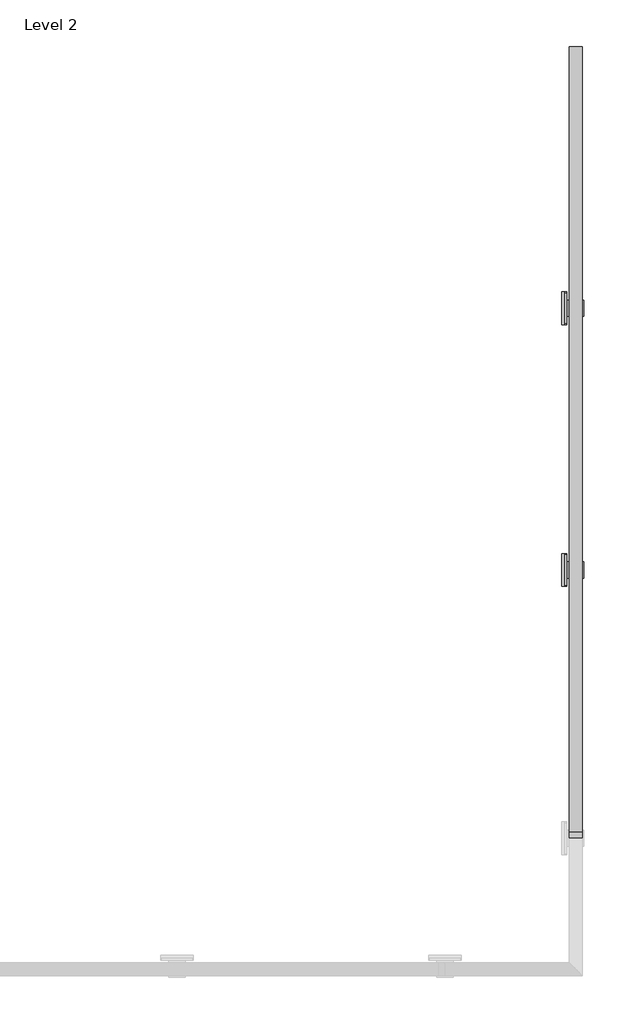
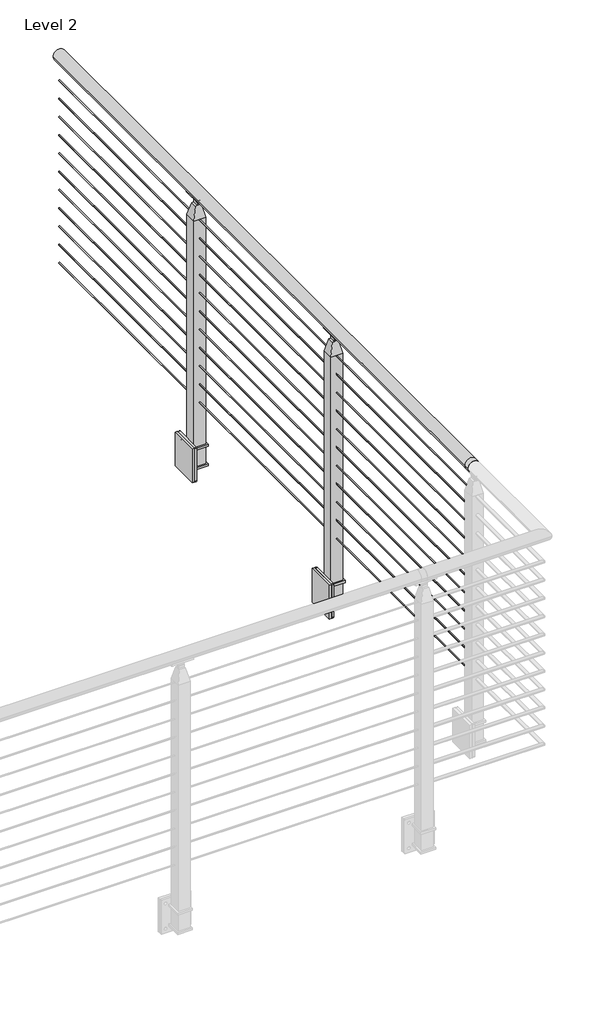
# One storey, part 4 of 17: 1 railing.
"""IFC4 building model written with IfcOpenShell, lengths in millimetres."""

from ifc_helpers import new_model, si_unit, point, frame, frame_2d, origin, place, context, project, spatial, polyline, circle_curve, trimmed, segment, composite_curve, outline, extrude, faceted_brep, element, save
from ifc_brep_helpers import plane_surface, cylinder_surface, revolved_surface, advanced_brep

model = new_model("IFC4")

# Units and contexts
model_context = context("Model", 3, world=origin())
ifc_project = project(units=[si_unit("LENGTHUNIT", "METRE", prefix="MILLI")], contexts=[model_context])

# Site, building, storey
site = spatial("IfcSite", under=ifc_project)
building = spatial("IfcBuilding", under=site)
storey = spatial("IfcBuildingStorey", under=building, Name="Level 2", Elevation=3048.0)

# Railing
placement = place(None, origin())
element("IfcRailing", 1, ObjectType="VIVA-CUBE-Cable-Fascia Mount-Straight", at=placement, inside=storey, context=model_context, shape_type="SolidModel", body=[
    advanced_brep(
    [(-3525.8538707, -48717.1587772, 4102.1), (-3576.6538707, -48717.1587772, 4102.1), (-3576.6538707, -51765.1587772, 4102.1), (-3525.8538707, -51765.1587772, 4102.1), (-3525.8538707, -51790.9556522, 4102.1), (-3576.6538707, -51790.9556522, 4102.1)],
    [
        (0, 1, circle_curve(frame((-3551.2538707, -48717.1587772, 4102.1), z_axis=(0.0, 1.0, 0.0), x_axis=(-1.0, 0.0, 0.0)), 25.4)),
        (1, 0, circle_curve(frame((-3551.2538707, -48717.1587772, 4102.1), z_axis=(0.0, 1.0, 0.0), x_axis=(-1.0, 0.0, 0.0)), 25.4)),
        (2, 3, circle_curve(frame((-3551.2538707, -51765.1587772, 4102.1), z_axis=(0.0, 1.0, 0.0), x_axis=(-1.0, 0.0, 0.0)), 25.4)),
        (3, 0),
        (1, 2),
        (3, 2, circle_curve(frame((-3551.2538707, -51765.1587772, 4102.1), z_axis=(0.0, 1.0, 0.0), x_axis=(-1.0, 0.0, 0.0)), 25.4)),
        (4, 5, circle_curve(frame((-3551.2538707, -51790.9556522, 4102.1), z_axis=(0.0, -1.0, 0.0), x_axis=(-1.0, 0.0, 0.0)), 25.4)),
        (5, 4, circle_curve(frame((-3551.2538707, -51790.9556522, 4102.1), z_axis=(0.0, -1.0, 0.0), x_axis=(-1.0, 0.0, 0.0)), 25.4)),
        (4, 3),
        (2, 5),
    ],
    [
        plane_surface(frame((-3551.2538707, -48717.1587772, 4127.5), z_axis=(0.0, 1.0, 0.0), x_axis=(0.0, 0.0, 1.0))),
        cylinder_surface(frame((-3551.2538707, -51765.1587772, 4102.1), z_axis=(0.0, -1.0, 0.0), x_axis=(-1.0, 0.0, 0.0)), 25.4),
        plane_surface(frame((-3551.2538707, -51790.9556522, 4127.5), z_axis=(0.0, -1.0, 0.0), x_axis=(0.0, 0.0, 1.0))),
        cylinder_surface(frame((-3551.2538707, -51790.9556522, 4102.1), z_axis=(0.0, -1.0, 0.0), x_axis=(-1.0, 0.0, 0.0)), 25.4),
    ],
    [
        (0, [[1, 2]]),
        (1, [[3, 4, -2, 5]]),
        (1, [[6, -5, -1, -4]]),
        (2, [[7, 8]]),
        (3, [[-7, 9, -3, 10]]),
        (3, [[-8, -10, -6, -9]]),
    ],
),
    extrude(outline(composite_curve([segment(trimmed(circle_curve(frame_2d((3985.4124, -3551.2538707)), 2.3876), [point((3985.4124, -3553.6414707))], [point((3985.4124, -3548.8662707))], False, "CARTESIAN"), True, "CONTINUOUS"), segment(trimmed(circle_curve(frame_2d((3985.4124, -3551.2538707)), 2.3876), [point((3985.4124, -3548.8662707))], [point((3985.4124, -3553.6414707))], False, "CARTESIAN"), True, "CONTINUOUS")], self_intersect=False)), frame((0.0, -51765.1587772, 0.0), z_axis=(0.0, 1.0, 0.0), x_axis=(0.0, 0.0, 1.0)), (0.0, 0.0, 1.0), 3048.0),
    extrude(outline(composite_curve([segment(trimmed(circle_curve(frame_2d((3902.8624, -3551.2538707)), 2.3876), [point((3902.8624, -3553.6414707))], [point((3902.8624, -3548.8662707))], False, "CARTESIAN"), True, "CONTINUOUS"), segment(trimmed(circle_curve(frame_2d((3902.8624, -3551.2538707)), 2.3876), [point((3902.8624, -3548.8662707))], [point((3902.8624, -3553.6414707))], False, "CARTESIAN"), True, "CONTINUOUS")], self_intersect=False)), frame((0.0, -51765.1587772, 0.0), z_axis=(0.0, 1.0, 0.0), x_axis=(0.0, 0.0, 1.0)), (0.0, 0.0, 1.0), 3048.0),
    extrude(outline(composite_curve([segment(trimmed(circle_curve(frame_2d((3820.3124, -3551.2538707)), 2.3876), [point((3820.3124, -3553.6414707))], [point((3820.3124, -3548.8662707))], False, "CARTESIAN"), True, "CONTINUOUS"), segment(trimmed(circle_curve(frame_2d((3820.3124, -3551.2538707)), 2.3876), [point((3820.3124, -3548.8662707))], [point((3820.3124, -3553.6414707))], False, "CARTESIAN"), True, "CONTINUOUS")], self_intersect=False)), frame((0.0, -51765.1587772, 0.0), z_axis=(0.0, 1.0, 0.0), x_axis=(0.0, 0.0, 1.0)), (0.0, 0.0, 1.0), 3048.0),
    extrude(outline(composite_curve([segment(trimmed(circle_curve(frame_2d((3737.7624, -3551.2538707)), 2.3876), [point((3737.7624, -3553.6414707))], [point((3737.7624, -3548.8662707))], False, "CARTESIAN"), True, "CONTINUOUS"), segment(trimmed(circle_curve(frame_2d((3737.7624, -3551.2538707)), 2.3876), [point((3737.7624, -3548.8662707))], [point((3737.7624, -3553.6414707))], False, "CARTESIAN"), True, "CONTINUOUS")], self_intersect=False)), frame((0.0, -51765.1587772, 0.0), z_axis=(0.0, 1.0, 0.0), x_axis=(0.0, 0.0, 1.0)), (0.0, 0.0, 1.0), 3048.0),
    extrude(outline(composite_curve([segment(trimmed(circle_curve(frame_2d((3655.2124, -3551.2538707)), 2.3876), [point((3655.2124, -3553.6414707))], [point((3655.2124, -3548.8662707))], False, "CARTESIAN"), True, "CONTINUOUS"), segment(trimmed(circle_curve(frame_2d((3655.2124, -3551.2538707)), 2.3876), [point((3655.2124, -3548.8662707))], [point((3655.2124, -3553.6414707))], False, "CARTESIAN"), True, "CONTINUOUS")], self_intersect=False)), frame((0.0, -51765.1587772, 0.0), z_axis=(0.0, 1.0, 0.0), x_axis=(0.0, 0.0, 1.0)), (0.0, 0.0, 1.0), 3048.0),
    extrude(outline(composite_curve([segment(trimmed(circle_curve(frame_2d((3572.6624, -3551.2538707)), 2.3876), [point((3572.6624, -3553.6414707))], [point((3572.6624, -3548.8662707))], False, "CARTESIAN"), True, "CONTINUOUS"), segment(trimmed(circle_curve(frame_2d((3572.6624, -3551.2538707)), 2.3876), [point((3572.6624, -3548.8662707))], [point((3572.6624, -3553.6414707))], False, "CARTESIAN"), True, "CONTINUOUS")], self_intersect=False)), frame((0.0, -51765.1587772, 0.0), z_axis=(0.0, 1.0, 0.0), x_axis=(0.0, 0.0, 1.0)), (0.0, 0.0, 1.0), 3048.0),
    extrude(outline(composite_curve([segment(trimmed(circle_curve(frame_2d((3490.1124, -3551.2538707)), 2.3876), [point((3490.1124, -3553.6414707))], [point((3490.1124, -3548.8662707))], False, "CARTESIAN"), True, "CONTINUOUS"), segment(trimmed(circle_curve(frame_2d((3490.1124, -3551.2538707)), 2.3876), [point((3490.1124, -3548.8662707))], [point((3490.1124, -3553.6414707))], False, "CARTESIAN"), True, "CONTINUOUS")], self_intersect=False)), frame((0.0, -51765.1587772, 0.0), z_axis=(0.0, 1.0, 0.0), x_axis=(0.0, 0.0, 1.0)), (0.0, 0.0, 1.0), 3048.0),
    extrude(outline(composite_curve([segment(trimmed(circle_curve(frame_2d((3407.5624, -3551.2538707)), 2.3876), [point((3407.5624, -3553.6414707))], [point((3407.5624, -3548.8662707))], False, "CARTESIAN"), True, "CONTINUOUS"), segment(trimmed(circle_curve(frame_2d((3407.5624, -3551.2538707)), 2.3876), [point((3407.5624, -3548.8662707))], [point((3407.5624, -3553.6414707))], False, "CARTESIAN"), True, "CONTINUOUS")], self_intersect=False)), frame((0.0, -51765.1587772, 0.0), z_axis=(0.0, 1.0, 0.0), x_axis=(0.0, 0.0, 1.0)), (0.0, 0.0, 1.0), 3048.0),
    extrude(outline(composite_curve([segment(trimmed(circle_curve(frame_2d((3325.0124, -3551.2538707)), 2.3876), [point((3325.0124, -3553.6414707))], [point((3325.0124, -3548.8662707))], False, "CARTESIAN"), True, "CONTINUOUS"), segment(trimmed(circle_curve(frame_2d((3325.0124, -3551.2538707)), 2.3876), [point((3325.0124, -3548.8662707))], [point((3325.0124, -3553.6414707))], False, "CARTESIAN"), True, "CONTINUOUS")], self_intersect=False)), frame((0.0, -51765.1587772, 0.0), z_axis=(0.0, 1.0, 0.0), x_axis=(0.0, 0.0, 1.0)), (0.0, 0.0, 1.0), 3048.0),
    extrude(outline(composite_curve([segment(trimmed(circle_curve(frame_2d((3242.4624, -3551.2538707)), 2.3876), [point((3242.4624, -3553.6414707))], [point((3242.4624, -3548.8662707))], False, "CARTESIAN"), True, "CONTINUOUS"), segment(trimmed(circle_curve(frame_2d((3242.4624, -3551.2538707)), 2.3876), [point((3242.4624, -3548.8662707))], [point((3242.4624, -3553.6414707))], False, "CARTESIAN"), True, "CONTINUOUS")], self_intersect=False)), frame((0.0, -51765.1587772, 0.0), z_axis=(0.0, 1.0, 0.0), x_axis=(0.0, 0.0, 1.0)), (0.0, 0.0, 1.0), 3048.0),
    extrude(outline(composite_curve([segment(trimmed(circle_curve(frame_2d((3159.9124, -3551.2538707)), 2.3876), [point((3159.9124, -3553.6414707))], [point((3159.9124, -3548.8662707))], False, "CARTESIAN"), True, "CONTINUOUS"), segment(trimmed(circle_curve(frame_2d((3159.9124, -3551.2538707)), 2.3876), [point((3159.9124, -3548.8662707))], [point((3159.9124, -3553.6414707))], False, "CARTESIAN"), True, "CONTINUOUS")], self_intersect=False)), frame((0.0, -51765.1587772, 0.0), z_axis=(0.0, 1.0, 0.0), x_axis=(0.0, 0.0, 1.0)), (0.0, 0.0, 1.0), 3048.0),
    extrude(outline(polyline([(-3605.7669063, -49669.2619022), (-3595.7847063, -49669.2619022), (-3595.7847063, -49796.2619022), (-3605.7669063, -49796.2619022), (-3605.7669063, -49669.2619022)])), frame((0.0, 0.0, 2838.45), z_axis=(0.0, 0.0, 1.0), x_axis=(1.0, 0.0, 0.0)), (0.0, 0.0, 1.0), 152.4),
    extrude(outline(composite_curve([segment(trimmed(circle_curve(frame_2d((-49671.8019022, 2988.31)), 2.54), [point((-49671.8019022, 2990.85))], [point((-49669.2619022, 2988.31))], False, "CARTESIAN"), True, "CONTINUOUS"), segment(polyline([(-49669.2619022, 2988.31), (-49669.2619022, 2840.99)]), True, "CONTINUOUS"), segment(trimmed(circle_curve(frame_2d((-49671.8019022, 2840.99)), 2.54), [point((-49669.2619022, 2840.99))], [point((-49671.8019022, 2838.45))], False, "CARTESIAN"), True, "CONTINUOUS"), segment(polyline([(-49671.8019022, 2838.45), (-49793.7219022, 2838.45)]), True, "CONTINUOUS"), segment(trimmed(circle_curve(frame_2d((-49793.7219022, 2840.99)), 2.54), [point((-49793.7219022, 2838.45))], [point((-49796.2619022, 2840.99))], False, "CARTESIAN"), True, "CONTINUOUS"), segment(polyline([(-49796.2619022, 2840.99), (-49796.2619022, 2988.31)]), True, "CONTINUOUS"), segment(trimmed(circle_curve(frame_2d((-49793.7219022, 2988.31)), 2.54), [point((-49796.2619022, 2988.31))], [point((-49793.7219022, 2990.85))], False, "CARTESIAN"), True, "CONTINUOUS"), segment(polyline([(-49793.7219022, 2990.85), (-49671.8019022, 2990.85)]), True, "CONTINUOUS")], self_intersect=False), holes=[composite_curve([segment(trimmed(circle_curve(frame_2d((-49777.2119022, 2971.8)), 5.55625), [point((-49771.6556522, 2971.8))], [point((-49782.7681522, 2971.8))], True, "CARTESIAN"), True, "CONTINUOUS"), segment(trimmed(circle_curve(frame_2d((-49777.2119022, 2971.8)), 5.55625), [point((-49782.7681522, 2971.8))], [point((-49771.6556522, 2971.8))], True, "CARTESIAN"), True, "CONTINUOUS")], self_intersect=False), composite_curve([segment(trimmed(circle_curve(frame_2d((-49688.3119022, 2971.8)), 5.55625), [point((-49682.7556522, 2971.8))], [point((-49693.8681522, 2971.8))], True, "CARTESIAN"), True, "CONTINUOUS"), segment(trimmed(circle_curve(frame_2d((-49688.3119022, 2971.8)), 5.55625), [point((-49693.8681522, 2971.8))], [point((-49682.7556522, 2971.8))], True, "CARTESIAN"), True, "CONTINUOUS")], self_intersect=False), composite_curve([segment(trimmed(circle_curve(frame_2d((-49688.3119022, 2857.5)), 5.55625), [point((-49682.7556522, 2857.5))], [point((-49693.8681522, 2857.5))], True, "CARTESIAN"), True, "CONTINUOUS"), segment(trimmed(circle_curve(frame_2d((-49688.3119022, 2857.5)), 5.55625), [point((-49693.8681522, 2857.5))], [point((-49682.7556522, 2857.5))], True, "CARTESIAN"), True, "CONTINUOUS")], self_intersect=False), composite_curve([segment(trimmed(circle_curve(frame_2d((-49777.2119022, 2857.5)), 5.55625), [point((-49771.6556522, 2857.5))], [point((-49782.7681522, 2857.5))], True, "CARTESIAN"), True, "CONTINUOUS"), segment(trimmed(circle_curve(frame_2d((-49777.2119022, 2857.5)), 5.55625), [point((-49782.7681522, 2857.5))], [point((-49771.6556522, 2857.5))], True, "CARTESIAN"), True, "CONTINUOUS")], self_intersect=False)]), frame((-3595.7847063, 0.0, 0.0), z_axis=(1.0, 0.0, 0.0), x_axis=(0.0, 1.0, 0.0)), (0.0, 0.0, 1.0), 9.9822),
    extrude(outline(polyline([(-3595.7847063, -49764.5119022), (-3595.7847063, -49701.0119022), (-3519.5038707, -49701.0119022), (-3519.5038707, -49764.5119022), (-3595.7847063, -49764.5119022)])), frame((0.0, 0.0, 2865.4375), z_axis=(0.0, 0.0, 1.0), x_axis=(1.0, 0.0, 0.0)), (0.0, 0.0, 1.0), 9.5123),
    extrude(outline(polyline([(-3595.7847063, -49764.5119022), (-3595.7847063, -49701.0119022), (-3519.5038707, -49701.0119022), (-3519.5038707, -49764.5119022), (-3595.7847063, -49764.5119022)])), frame((0.0, 0.0, 2954.3375), z_axis=(0.0, 0.0, 1.0), x_axis=(1.0, 0.0, 0.0)), (0.0, 0.0, 1.0), 9.525),
    faceted_brep([(-3563.9538707, -49720.0619022, 4045.2902749), (-3563.9538707, -49745.4619022, 4045.2902749), (-3555.2226207, -49745.4619022, 4045.2902749), (-3555.2226207, -49720.0619022, 4045.2902749), (-3538.5538707, -49745.4619022, 4045.2902749), (-3538.5538707, -49720.0619022, 4045.2902749), (-3547.2851207, -49720.0619022, 4045.2902749), (-3547.2851207, -49745.4619022, 4045.2902749), (-3576.6538707, -49707.3619022, 3989.1347854), (-3525.8538707, -49707.3619022, 3989.1347854), (-3576.6538707, -49758.1619022, 3989.1347854), (-3525.8538707, -49758.1619022, 3989.1347854), (-3576.6538707, -49707.3619022, 2874.9498), (-3525.8538707, -49707.3619022, 2874.9498), (-3525.8538707, -49758.1619022, 2874.9498), (-3576.6538707, -49758.1619022, 2874.9498), (-3547.2851207, -49745.4619022, 4057.3306013), (-3547.2851207, -49720.0619022, 4057.3306013), (-3555.2226207, -49720.0619022, 4057.3306013), (-3555.2226207, -49745.4619022, 4057.3306013)], [[[0, 1, 2, 3]], [[4, 5, 6, 7]], [[8, 0, 3, 6, 5, 9]], [[1, 0, 8, 10]], [[1, 10, 11, 4, 7, 2]], [[5, 4, 11, 9]], [[12, 13, 14, 15]], [[12, 15, 10, 8]], [[15, 14, 11, 10]], [[14, 13, 9, 11]], [[13, 12, 8, 9]], [[16, 17, 18, 19]], [[17, 16, 7, 6]], [[18, 17, 6, 3]], [[19, 18, 3, 2]], [[16, 19, 2, 7]]]),
    extrude(outline(composite_curve([segment(trimmed(circle_curve(frame_2d((4102.1433184, -3551.3505991)), 25.4345159), [point((4080.0284941, -3538.7867962))], [point((4079.9335733, -3563.7458328))], True, "CARTESIAN"), True, "CONTINUOUS"), segment(trimmed(circle_curve(frame_2d((4077.4310885, -3564.990486)), 2.7949225), [point((4079.9335733, -3563.7458328))], [point((4075.0585031, -3566.467791))], False, "CARTESIAN"), True, "CONTINUOUS"), segment(trimmed(circle_curve(frame_2d((4102.905945, -3551.217136)), 31.75), [point((4075.0585031, -3566.467791))], [point((4075.6392616, -3534.9508988))], False, "CARTESIAN"), True, "CONTINUOUS"), segment(trimmed(circle_curve(frame_2d((4077.5101807, -3537.2392385)), 2.9558141), [point((4075.6392616, -3534.9508988))], [point((4080.0284941, -3538.7867962))], False, "CARTESIAN"), True, "CONTINUOUS")], self_intersect=False)), frame((0.0, -49777.9993022, 0.0), z_axis=(0.0, 1.0, 0.0), x_axis=(0.0, 0.0, 1.0)), (0.0, 0.0, 1.0), 90.4748),
    advanced_brep(
    [(-3553.7938707, -49705.6939873, 4071.3685171), (-3553.7938707, -49720.0619022, 4057.0006022), (-3553.7938707, -49745.4619022, 4057.0006022), (-3553.7938707, -49759.829817, 4071.3685171), (-3548.7138707, -49705.6939873, 4071.3685171), (-3548.7138707, -49759.829817, 4071.3685171), (-3548.7138707, -49745.4619022, 4057.0006022), (-3548.7138707, -49720.0619022, 4057.0006022)],
    [
        (0, 1, circle_curve(frame((-3553.7938707, -49705.6939873, 4057.0006022), z_axis=(1.0, 0.0, 0.0), x_axis=(0.0, -1.0, 0.0)), 14.3679149)),
        (1, 2, circle_curve(frame((-3553.7938707, -49732.7619022, 4057.0006022), z_axis=(-1.0, 0.0, 0.0), x_axis=(0.0, -1.0, 0.0)), 12.7)),
        (2, 3, circle_curve(frame((-3553.7938707, -49759.829817, 4057.0006022), z_axis=(1.0, 0.0, 0.0), x_axis=(0.0, -1.0, 0.0)), 14.3679149)),
        (3, 0),
        (4, 5),
        (5, 6, circle_curve(frame((-3548.7138707, -49759.829817, 4057.0006022), z_axis=(-1.0, 0.0, 0.0), x_axis=(0.0, -1.0, 0.0)), 14.3679149)),
        (6, 7, circle_curve(frame((-3548.7138707, -49732.7619022, 4057.0006022), z_axis=(1.0, 0.0, 0.0), x_axis=(0.0, -1.0, 0.0)), 12.7)),
        (7, 4, circle_curve(frame((-3548.7138707, -49705.6939873, 4057.0006022), z_axis=(-1.0, 0.0, 0.0), x_axis=(0.0, -1.0, 0.0)), 14.3679149)),
        (0, 4),
        (7, 1),
        (6, 2),
        (5, 3),
    ],
    [
        plane_surface(frame((-3553.7938707, -49720.0619022, 4057.0006022), z_axis=(-1.0, 0.0, 0.0), x_axis=(0.0, 0.0, -1.0))),
        plane_surface(frame((-3548.7138707, -49720.0619022, 4057.0006022), z_axis=(1.0, 0.0, 0.0), x_axis=(0.0, 0.0, 1.0))),
        revolved_surface(polyline([(-3548.7138707, -49720.0619022, 4057.0006022), (-3553.7938707, -49720.0619022, 4057.0006022)]), (-3548.7138707, -49705.6939873, 4057.0006022), (1.0, 0.0, 0.0)),
        cylinder_surface(frame((-3548.7138707, -49732.7619022, 4057.0006022), z_axis=(-1.0, 0.0, 0.0), x_axis=(0.0, -1.0, 0.0)), 12.7),
        revolved_surface(polyline([(-3548.7138707, -49774.1977319, 4057.0006022), (-3553.7938707, -49774.1977319, 4057.0006022)]), (-3548.7138707, -49759.829817, 4057.0006022), (1.0, 0.0, 0.0)),
        plane_surface(frame((-3553.7938707, -49759.829817, 4071.3685171), z_axis=(0.0, 0.0, 1.0), x_axis=(1.0, 0.0, 0.0))),
    ],
    [
        (0, [[1, 2, 3, 4]]),
        (1, [[5, 6, 7, 8]]),
        (2, [[-1, 9, -8, 10]]),
        (3, [[-2, -10, -7, 11]]),
        (4, [[-3, -11, -6, 12]]),
        (5, [[-4, -12, -5, -9]]),
    ],
),
    extrude(outline(polyline([(-3605.7669063, -50685.2619022), (-3595.7847063, -50685.2619022), (-3595.7847063, -50812.2619022), (-3605.7669063, -50812.2619022), (-3605.7669063, -50685.2619022)])), frame((0.0, 0.0, 2838.45), z_axis=(0.0, 0.0, 1.0), x_axis=(1.0, 0.0, 0.0)), (0.0, 0.0, 1.0), 152.4),
    extrude(outline(composite_curve([segment(trimmed(circle_curve(frame_2d((-50687.8019022, 2988.31)), 2.54), [point((-50687.8019022, 2990.85))], [point((-50685.2619022, 2988.31))], False, "CARTESIAN"), True, "CONTINUOUS"), segment(polyline([(-50685.2619022, 2988.31), (-50685.2619022, 2840.99)]), True, "CONTINUOUS"), segment(trimmed(circle_curve(frame_2d((-50687.8019022, 2840.99)), 2.54), [point((-50685.2619022, 2840.99))], [point((-50687.8019022, 2838.45))], False, "CARTESIAN"), True, "CONTINUOUS"), segment(polyline([(-50687.8019022, 2838.45), (-50809.7219022, 2838.45)]), True, "CONTINUOUS"), segment(trimmed(circle_curve(frame_2d((-50809.7219022, 2840.99)), 2.54), [point((-50809.7219022, 2838.45))], [point((-50812.2619022, 2840.99))], False, "CARTESIAN"), True, "CONTINUOUS"), segment(polyline([(-50812.2619022, 2840.99), (-50812.2619022, 2988.31)]), True, "CONTINUOUS"), segment(trimmed(circle_curve(frame_2d((-50809.7219022, 2988.31)), 2.54), [point((-50812.2619022, 2988.31))], [point((-50809.7219022, 2990.85))], False, "CARTESIAN"), True, "CONTINUOUS"), segment(polyline([(-50809.7219022, 2990.85), (-50687.8019022, 2990.85)]), True, "CONTINUOUS")], self_intersect=False), holes=[composite_curve([segment(trimmed(circle_curve(frame_2d((-50793.2119022, 2971.8)), 5.55625), [point((-50787.6556522, 2971.8))], [point((-50798.7681522, 2971.8))], True, "CARTESIAN"), True, "CONTINUOUS"), segment(trimmed(circle_curve(frame_2d((-50793.2119022, 2971.8)), 5.55625), [point((-50798.7681522, 2971.8))], [point((-50787.6556522, 2971.8))], True, "CARTESIAN"), True, "CONTINUOUS")], self_intersect=False), composite_curve([segment(trimmed(circle_curve(frame_2d((-50704.3119022, 2971.8)), 5.55625), [point((-50698.7556522, 2971.8))], [point((-50709.8681522, 2971.8))], True, "CARTESIAN"), True, "CONTINUOUS"), segment(trimmed(circle_curve(frame_2d((-50704.3119022, 2971.8)), 5.55625), [point((-50709.8681522, 2971.8))], [point((-50698.7556522, 2971.8))], True, "CARTESIAN"), True, "CONTINUOUS")], self_intersect=False), composite_curve([segment(trimmed(circle_curve(frame_2d((-50704.3119022, 2857.5)), 5.55625), [point((-50698.7556522, 2857.5))], [point((-50709.8681522, 2857.5))], True, "CARTESIAN"), True, "CONTINUOUS"), segment(trimmed(circle_curve(frame_2d((-50704.3119022, 2857.5)), 5.55625), [point((-50709.8681522, 2857.5))], [point((-50698.7556522, 2857.5))], True, "CARTESIAN"), True, "CONTINUOUS")], self_intersect=False), composite_curve([segment(trimmed(circle_curve(frame_2d((-50793.2119022, 2857.5)), 5.55625), [point((-50787.6556522, 2857.5))], [point((-50798.7681522, 2857.5))], True, "CARTESIAN"), True, "CONTINUOUS"), segment(trimmed(circle_curve(frame_2d((-50793.2119022, 2857.5)), 5.55625), [point((-50798.7681522, 2857.5))], [point((-50787.6556522, 2857.5))], True, "CARTESIAN"), True, "CONTINUOUS")], self_intersect=False)]), frame((-3595.7847063, 0.0, 0.0), z_axis=(1.0, 0.0, 0.0), x_axis=(0.0, 1.0, 0.0)), (0.0, 0.0, 1.0), 9.9822),
    extrude(outline(polyline([(-3595.7847063, -50780.5119022), (-3595.7847063, -50717.0119022), (-3519.5038707, -50717.0119022), (-3519.5038707, -50780.5119022), (-3595.7847063, -50780.5119022)])), frame((0.0, 0.0, 2865.4375), z_axis=(0.0, 0.0, 1.0), x_axis=(1.0, 0.0, 0.0)), (0.0, 0.0, 1.0), 9.5123),
    extrude(outline(polyline([(-3595.7847063, -50780.5119022), (-3595.7847063, -50717.0119022), (-3519.5038707, -50717.0119022), (-3519.5038707, -50780.5119022), (-3595.7847063, -50780.5119022)])), frame((0.0, 0.0, 2954.3375), z_axis=(0.0, 0.0, 1.0), x_axis=(1.0, 0.0, 0.0)), (0.0, 0.0, 1.0), 9.525),
    faceted_brep([(-3563.9538707, -50736.0619022, 4045.2902749), (-3563.9538707, -50761.4619022, 4045.2902749), (-3555.2226207, -50761.4619022, 4045.2902749), (-3555.2226207, -50736.0619022, 4045.2902749), (-3538.5538707, -50761.4619022, 4045.2902749), (-3538.5538707, -50736.0619022, 4045.2902749), (-3547.2851207, -50736.0619022, 4045.2902749), (-3547.2851207, -50761.4619022, 4045.2902749), (-3576.6538707, -50723.3619022, 3989.1347854), (-3525.8538707, -50723.3619022, 3989.1347854), (-3576.6538707, -50774.1619022, 3989.1347854), (-3525.8538707, -50774.1619022, 3989.1347854), (-3576.6538707, -50723.3619022, 2874.9498), (-3525.8538707, -50723.3619022, 2874.9498), (-3525.8538707, -50774.1619022, 2874.9498), (-3576.6538707, -50774.1619022, 2874.9498), (-3547.2851207, -50761.4619022, 4057.3306013), (-3547.2851207, -50736.0619022, 4057.3306013), (-3555.2226207, -50736.0619022, 4057.3306013), (-3555.2226207, -50761.4619022, 4057.3306013)], [[[0, 1, 2, 3]], [[4, 5, 6, 7]], [[8, 0, 3, 6, 5, 9]], [[1, 0, 8, 10]], [[1, 10, 11, 4, 7, 2]], [[5, 4, 11, 9]], [[12, 13, 14, 15]], [[12, 15, 10, 8]], [[15, 14, 11, 10]], [[14, 13, 9, 11]], [[13, 12, 8, 9]], [[16, 17, 18, 19]], [[17, 16, 7, 6]], [[18, 17, 6, 3]], [[19, 18, 3, 2]], [[16, 19, 2, 7]]]),
    extrude(outline(composite_curve([segment(trimmed(circle_curve(frame_2d((4102.1433184, -3551.3505991)), 25.4345159), [point((4080.0284941, -3538.7867962))], [point((4079.9335733, -3563.7458328))], True, "CARTESIAN"), True, "CONTINUOUS"), segment(trimmed(circle_curve(frame_2d((4077.4310885, -3564.990486)), 2.7949225), [point((4079.9335733, -3563.7458328))], [point((4075.0585031, -3566.467791))], False, "CARTESIAN"), True, "CONTINUOUS"), segment(trimmed(circle_curve(frame_2d((4102.905945, -3551.217136)), 31.75), [point((4075.0585031, -3566.467791))], [point((4075.6392616, -3534.9508988))], False, "CARTESIAN"), True, "CONTINUOUS"), segment(trimmed(circle_curve(frame_2d((4077.5101807, -3537.2392385)), 2.9558141), [point((4075.6392616, -3534.9508988))], [point((4080.0284941, -3538.7867962))], False, "CARTESIAN"), True, "CONTINUOUS")], self_intersect=False)), frame((0.0, -50793.9993022, 0.0), z_axis=(0.0, 1.0, 0.0), x_axis=(0.0, 0.0, 1.0)), (0.0, 0.0, 1.0), 90.4748),
    advanced_brep(
    [(-3553.7938707, -50721.6939873, 4071.3685171), (-3553.7938707, -50736.0619022, 4057.0006022), (-3553.7938707, -50761.4619022, 4057.0006022), (-3553.7938707, -50775.829817, 4071.3685171), (-3548.7138707, -50721.6939873, 4071.3685171), (-3548.7138707, -50775.829817, 4071.3685171), (-3548.7138707, -50761.4619022, 4057.0006022), (-3548.7138707, -50736.0619022, 4057.0006022)],
    [
        (0, 1, circle_curve(frame((-3553.7938707, -50721.6939873, 4057.0006022), z_axis=(1.0, 0.0, 0.0), x_axis=(0.0, -1.0, 0.0)), 14.3679149)),
        (1, 2, circle_curve(frame((-3553.7938707, -50748.7619022, 4057.0006022), z_axis=(-1.0, 0.0, 0.0), x_axis=(0.0, -1.0, 0.0)), 12.7)),
        (2, 3, circle_curve(frame((-3553.7938707, -50775.829817, 4057.0006022), z_axis=(1.0, 0.0, 0.0), x_axis=(0.0, -1.0, 0.0)), 14.3679149)),
        (3, 0),
        (4, 5),
        (5, 6, circle_curve(frame((-3548.7138707, -50775.829817, 4057.0006022), z_axis=(-1.0, 0.0, 0.0), x_axis=(0.0, -1.0, 0.0)), 14.3679149)),
        (6, 7, circle_curve(frame((-3548.7138707, -50748.7619022, 4057.0006022), z_axis=(1.0, 0.0, 0.0), x_axis=(0.0, -1.0, 0.0)), 12.7)),
        (7, 4, circle_curve(frame((-3548.7138707, -50721.6939873, 4057.0006022), z_axis=(-1.0, 0.0, 0.0), x_axis=(0.0, -1.0, 0.0)), 14.3679149)),
        (0, 4),
        (7, 1),
        (6, 2),
        (5, 3),
    ],
    [
        plane_surface(frame((-3553.7938707, -50736.0619022, 4057.0006022), z_axis=(-1.0, 0.0, 0.0), x_axis=(0.0, 0.0, -1.0))),
        plane_surface(frame((-3548.7138707, -50736.0619022, 4057.0006022), z_axis=(1.0, 0.0, 0.0), x_axis=(0.0, 0.0, 1.0))),
        revolved_surface(polyline([(-3548.7138707, -50736.0619022, 4057.0006022), (-3553.7938707, -50736.0619022, 4057.0006022)]), (-3548.7138707, -50721.6939873, 4057.0006022), (1.0, 0.0, 0.0)),
        cylinder_surface(frame((-3548.7138707, -50748.7619022, 4057.0006022), z_axis=(-1.0, 0.0, 0.0), x_axis=(0.0, -1.0, 0.0)), 12.7),
        revolved_surface(polyline([(-3548.7138707, -50790.1977319, 4057.0006022), (-3553.7938707, -50790.1977319, 4057.0006022)]), (-3548.7138707, -50775.829817, 4057.0006022), (1.0, 0.0, 0.0)),
        plane_surface(frame((-3553.7938707, -50775.829817, 4071.3685171), z_axis=(0.0, 0.0, 1.0), x_axis=(1.0, 0.0, 0.0))),
    ],
    [
        (0, [[1, 2, 3, 4]]),
        (1, [[5, 6, 7, 8]]),
        (2, [[-1, 9, -8, 10]]),
        (3, [[-2, -10, -7, 11]]),
        (4, [[-3, -11, -6, 12]]),
        (5, [[-4, -12, -5, -9]]),
    ],
),
])

save(model, "model.ifc")
